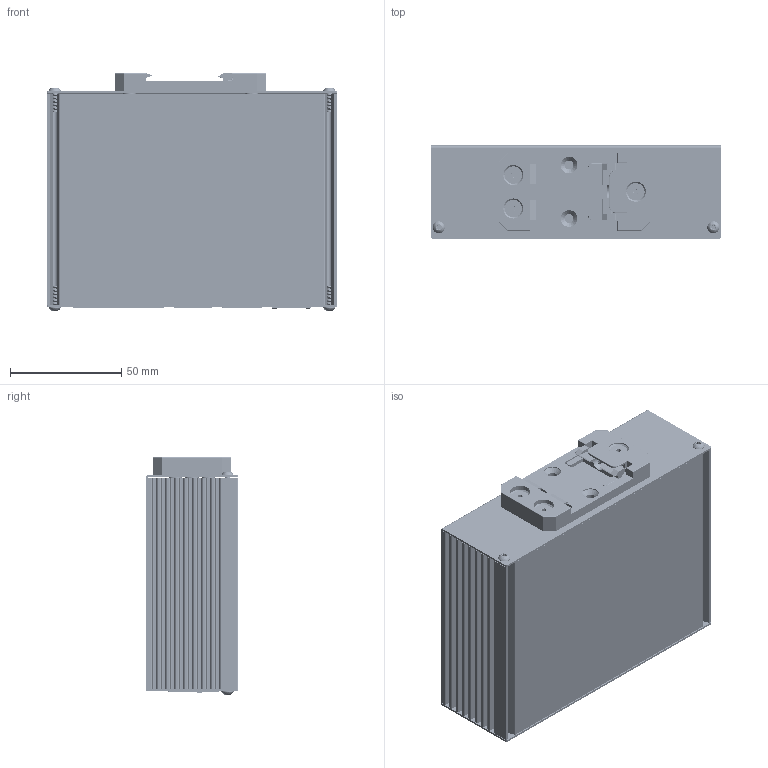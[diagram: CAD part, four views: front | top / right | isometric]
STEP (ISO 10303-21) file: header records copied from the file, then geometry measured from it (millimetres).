
FILE_DESCRIPTION (( 'STEP AP203' ), '1' );
FILE_NAME ('DCS-800E.STEP', '2019-08-02T18:45:47', ( '' ), ( '' ), 'SwSTEP 2.0', 'SolidWorks 2018', '' );
FILE_SCHEMA (( 'CONFIG_CONTROL_DESIGN' ));
Length unit declared in the file: inch
Products named in the file (409): Extruded-7^6331333120_RT1_071186_8Chan_prototype_v2(2)_071186 REV-; housing^WL-SMCW_0603_LED_LED3_071186_8Chan_prototype_v2(2)_071186 REV-; Extruded-0^6331330816_R2.3_071186_8Chan_prototype_v2(2)_071186 REV-; User_Library-R_0402^R27.1_071186_8Chan_prototype_v2(2)_071186 REV-; TP10^071186_8Chan_prototype_v2(2)_071186 REV-; DCS-800E; Extruded-20^6524812928_Q1.5_071186_8Chan_prototype_v2(2)_071186 REV-; TP9.2^071186_8Chan_prototype_v2(2)_071186 REV-; Extruded-18^6331329472_R5.3_071186_8Chan_prototype_v2(2)_071186 REV-; TP2.4^071186_8Chan_prototype_v2(2)_071186 REV-; Extruded-0^6331330816_C2.1_071186_8Chan_prototype_v2(2)_071186 REV-; Extruded-14^6524810624_C14_071186_8Chan_prototype_v2(2)_071186 REV-; 6524813120^TP3.7_071186_8Chan_prototype_v2(2)_071186 REV-; User_Library-R_0402^R11_071186_8Chan_prototype_v2(2)_071186 REV-; LED1^071186_8Chan_prototype_v2(2)_071186 REV-; Extruded-10^6524810240_C27_071186_8Chan_prototype_v2(2)_071186 REV-; 6524813120^TP1.3_071186_8Chan_prototype_v2(2)_071186 REV-; User_Library-capacitor_size_F^C21_071186_8Chan_prototype_v2(2)_071186 REV-; Leader-2^7234779840_Q5_071186_8Chan_prototype_v2(2)_071186 REV-; User_Library-R_0402^R24_071186_8Chan_prototype_v2(2)_071186 REV-; TP1.3^071186_8Chan_prototype_v2(2)_071186 REV-; Extruded^6524813120_TP7_071186_8Chan_prototype_v2(2)_071186 REV-; Extruded-0^6331330816_R7.7_071186_8Chan_prototype_v2(2)_071186 REV-; 6524813120^TP1.7_071186_8Chan_prototype_v2(2)_071186 REV-; User_Library-R_0402^R41_071186_8Chan_prototype_v2(2)_071186 REV-; TP2.7^071186_8Chan_prototype_v2(2)_071186 REV-; 6320355264^X1_071186_8Chan_prototype_v2(2)_071186 REV-; Extruded-23^6524811584_L1.4_071186_8Chan_prototype_v2(2)_071186 REV-; Extruded-24^6524812736_D4_071186_8Chan_prototype_v2(2)_071186 REV-; Extruded-0^6331330816_R3.5_071186_8Chan_prototype_v2(2)_071186 REV-; Open_CASCADE_STEP_translator_6.8_1.1.1-1^Body-1_7234779840_Q5_071186_8Chan_prototype_v2(2)_071186 REV-; Extruded-21^6524811392_P2_071186_8Chan_prototype_v2(2)_071186 REV-; Extruded-20^6524812928_Q1.8_071186_8Chan_prototype_v2(2)_071186 REV-; User_Library-R_0402^R33_071186_8Chan_prototype_v2(2)_071186 REV-; Extruded-0^6331330816_R2.8_071186_8Chan_prototype_v2(2)_071186 REV-; Extruded-0^6331330816_R6.4_071186_8Chan_prototype_v2(2)_071186 REV-; Extruded^6524813120_TP3.2_071186_8Chan_prototype_v2(2)_071186 REV-; User_Library-SOT323_(SC70-3)-1_K_X_F6rper_1^User_Library-SOT323_(SC70-3)-1_D9_071186_8Chan_prototype_v2(2)_071186 REV-; TP3.6^071186_8Chan_prototype_v2(2)_071186 REV-; 6524813120^TP3.2_071186_8Chan_prototype_v2(2)_071186 REV-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
Assembly tree (184 placements, depth 6):
  Extruded-7^6331333120_RT1_071186_8Chan_prototype_v2(2)_071186 REV-
  Extruded-0^6331330816_R2.3_071186_8Chan_prototype_v2(2)_071186 REV-
  User_Library-R_0402^R27.1_071186_8Chan_prototype_v2(2)_071186 REV-
  DCS-800E
    068-20-030_Default<As Machined>
    097499_Default<As Machined>
    071186 REV-_INSTALLATION MODEL
      071186_8Chan_prototype_v2(2)^071186 REV-_INSTALLATION MODEL
        TP13^071186_8Chan_prototype_v2(2)_071186 REV-
          6524813120^TP13_071186_8Chan_prototype_v2(2)_071186 REV-
            Extruded^6524813120_TP13_071186_8Chan_prototype_v2(2)_071186 REV-
        TP12^071186_8Chan_prototype_v2(2)_071186 REV-
          6524813120^TP12_071186_8Chan_prototype_v2(2)_071186 REV-
            Extruded^6524813120_TP12_071186_8Chan_prototype_v2(2)_071186 REV-
        TP11^071186_8Chan_prototype_v2(2)_071186 REV-
          6524813120^TP11_071186_8Chan_prototype_v2(2)_071186 REV-
            Extruded^6524813120_TP11_071186_8Chan_prototype_v2(2)_071186 REV-
        TP10^071186_8Chan_prototype_v2(2)_071186 REV-
          6524813120^TP10_071186_8Chan_prototype_v2(2)_071186 REV-
            Extruded^6524813120_TP10_071186_8Chan_prototype_v2(2)_071186 REV-
        TP9.2^071186_8Chan_prototype_v2(2)_071186 REV-
          6524813120^TP9.2_071186_8Chan_prototype_v2(2)_071186 REV-
            Extruded^6524813120_TP9.2_071186_8Chan_prototype_v2(2)_071186 REV-
        TP9.1^071186_8Chan_prototype_v2(2)_071186 REV-
          6524813120^TP9.1_071186_8Chan_prototype_v2(2)_071186 REV-
            Extruded^6524813120_TP9.1_071186_8Chan_prototype_v2(2)_071186 REV-
        TP8^071186_8Chan_prototype_v2(2)_071186 REV-
          6524813120^TP8_071186_8Chan_prototype_v2(2)_071186 REV-
            Extruded^6524813120_TP8_071186_8Chan_prototype_v2(2)_071186 REV-
        TP7^071186_8Chan_prototype_v2(2)_071186 REV-
          6524813120^TP7_071186_8Chan_prototype_v2(2)_071186 REV-
            Extruded^6524813120_TP7_071186_8Chan_prototype_v2(2)_071186 REV-
        TP6^071186_8Chan_prototype_v2(2)_071186 REV-
          6524813120^TP6_071186_8Chan_prototype_v2(2)_071186 REV-
            Extruded^6524813120_TP6_071186_8Chan_prototype_v2(2)_071186 REV-
        TP5^071186_8Chan_prototype_v2(2)_071186 REV-
          6524813120^TP5_071186_8Chan_prototype_v2(2)_071186 REV-
            Extruded^6524813120_TP5_071186_8Chan_prototype_v2(2)_071186 REV-
        TP4^071186_8Chan_prototype_v2(2)_071186 REV-
          6524813120^TP4_071186_8Chan_prototype_v2(2)_071186 REV-
            Extruded^6524813120_TP4_071186_8Chan_prototype_v2(2)_071186 REV-
        TP3.8^071186_8Chan_prototype_v2(2)_071186 REV-
          6524813120^TP3.8_071186_8Chan_prototype_v2(2)_071186 REV-
            Extruded^6524813120_TP3.8_071186_8Chan_prototype_v2(2)_071186 REV-
        TP3.7^071186_8Chan_prototype_v2(2)_071186 REV-
          6524813120^TP3.7_071186_8Chan_prototype_v2(2)_071186 REV-
            Extruded^6524813120_TP3.7_071186_8Chan_prototype_v2(2)_071186 REV-
        TP3.6^071186_8Chan_prototype_v2(2)_071186 REV-
          6524813120^TP3.6_071186_8Chan_prototype_v2(2)_071186 REV-
            Extruded^6524813120_TP3.6_071186_8Chan_prototype_v2(2)_071186 REV-
        TP3.5^071186_8Chan_prototype_v2(2)_071186 REV-
          6524813120^TP3.5_071186_8Chan_prototype_v2(2)_071186 REV-
            Extruded^6524813120_TP3.5_071186_8Chan_prototype_v2(2)_071186 REV-
        TP3.4^071186_8Chan_prototype_v2(2)_071186 REV-
          6524813120^TP3.4_071186_8Chan_prototype_v2(2)_071186 REV-
            Extruded^6524813120_TP3.4_071186_8Chan_prototype_v2(2)_071186 REV-
        TP3.3^071186_8Chan_prototype_v2(2)_071186 REV-
          6524813120^TP3.3_071186_8Chan_prototype_v2(2)_071186 REV-
            Extruded^6524813120_TP3.3_071186_8Chan_prototype_v2(2)_071186 REV-
        TP3.2^071186_8Chan_prototype_v2(2)_071186 REV-
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Bounding box: 130.56 x 41.71 x 106.58 mm (x, y, z)
Volume: 145268 mm3; surface area: 158340 mm2
Topology: 133 solids, 135 shells, 6012 faces, 15052 edges, 9565 vertices
Faces by surface type: plane 3855, cylinder 1480, bspline 442, cone 169, sphere 44, torus 22
Entity records: 228051 total; most frequent: CARTESIAN_POINT 63253, ORIENTED_EDGE 27722, DIRECTION 24282, EDGE_CURVE 13867, VECTOR 9096, LINE 9096, VERTEX_POINT 8814, AXIS2_PLACEMENT_3D 7593
